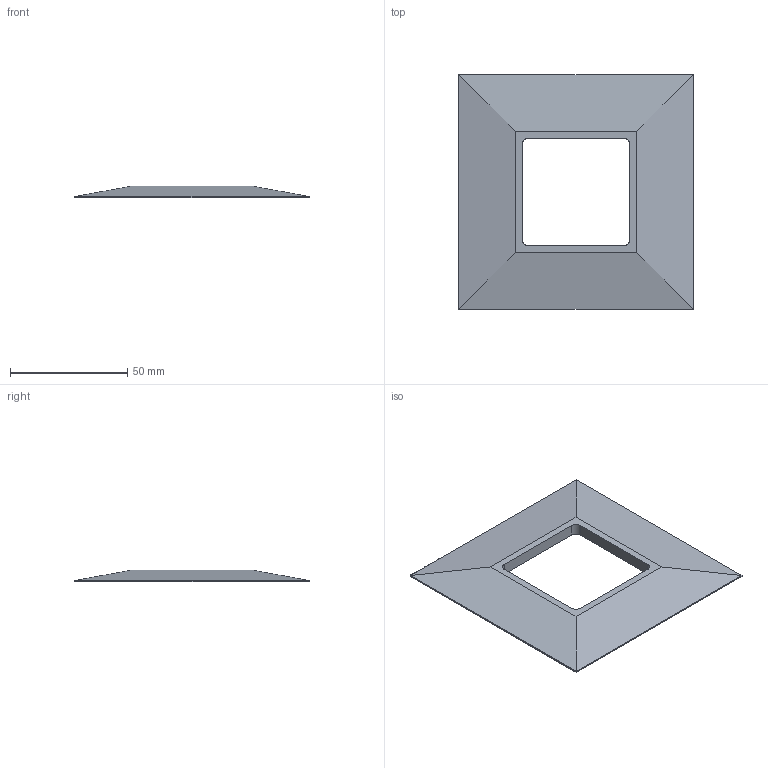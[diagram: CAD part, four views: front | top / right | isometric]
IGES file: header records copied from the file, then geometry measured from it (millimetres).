
Start section: C
Global section: file name: 8031-2.igs; native system: By Siemens PLM Incorporated; preprocessor: XPlus GENERIC/IGES 16.0.42; author: Author; organization: Title; date: 20231213.150626; units: millimetre
Bounding box: 100 x 100 x 5 mm (x, y, z)
Surface area: 17796.5 mm2 (no closed solid volume)
Topology: 0 solids, 0 shells, 32 faces, 160 edges, 160 vertices
Faces by surface type: bspline 32
